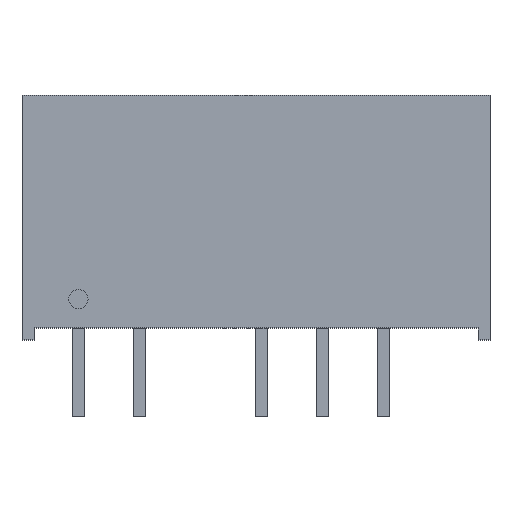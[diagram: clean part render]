
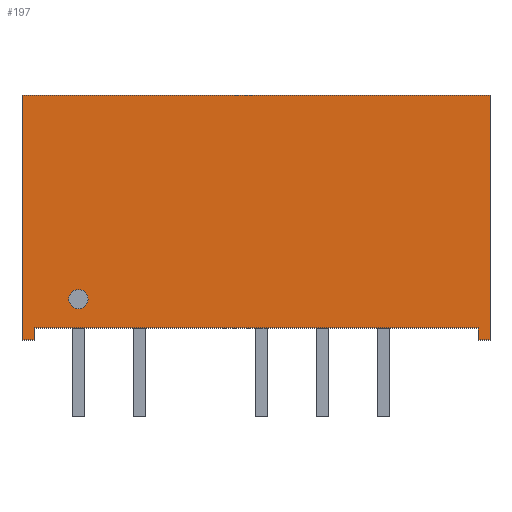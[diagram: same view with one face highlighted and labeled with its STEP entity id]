
A CAD part, top view. The second image highlights one B-rep face of the part: STEP entity #197.
In plain terms, the highlighted planar face has unit normal (0, 0, 1).
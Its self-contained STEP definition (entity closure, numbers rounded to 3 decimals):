
#15 = VERTEX_POINT ( 'NONE', #277 ) ;
#22 = VERTEX_POINT ( 'NONE', #267 ) ;
#24 = EDGE_CURVE ( 'NONE', #22, #25, #266, .T. ) ;
#25 = VERTEX_POINT ( 'NONE', #261 ) ;
#42 = VERTEX_POINT ( 'NONE', #519 ) ;
#51 = EDGE_CURVE ( 'NONE', #56, #125, #541, .T. ) ;
#56 = VERTEX_POINT ( 'NONE', #530 ) ;
#61 = VERTEX_POINT ( 'NONE', #514 ) ;
#63 = EDGE_CURVE ( 'NONE', #15, #61, #513, .T. ) ;
#77 = EDGE_CURVE ( 'NONE', #125, #143, #493, .T. ) ;
#80 = EDGE_CURVE ( 'NONE', #143, #42, #489, .T. ) ;
#87 = VERTEX_POINT ( 'NONE', #693 ) ;
#104 = EDGE_LOOP ( 'NONE', ( #113, #204 ) ) ;
#105 = ORIENTED_EDGE ( 'NONE', *, *, #126, .T. ) ;
#106 = ORIENTED_EDGE ( 'NONE', *, *, #51, .T. ) ;
#107 = ORIENTED_EDGE ( 'NONE', *, *, #110, .T. ) ;
#108 = ORIENTED_EDGE ( 'NONE', *, *, #77, .T. ) ;
#110 = EDGE_CURVE ( 'NONE', #123, #15, #675, .T. ) ;
#111 = ORIENTED_EDGE ( 'NONE', *, *, #80, .T. ) ;
#112 = ORIENTED_EDGE ( 'NONE', *, *, #116, .T. ) ;
#113 = ORIENTED_EDGE ( 'NONE', *, *, #203, .F. ) ;
#116 = EDGE_CURVE ( 'NONE', #42, #123, #577, .T. ) ;
#123 = VERTEX_POINT ( 'NONE', #564 ) ;
#125 = VERTEX_POINT ( 'NONE', #563 ) ;
#126 = EDGE_CURVE ( 'NONE', #87, #56, #562, .T. ) ;
#143 = VERTEX_POINT ( 'NONE', #586 ) ;
#185 = EDGE_CURVE ( 'NONE', #61, #87, #941, .T. ) ;
#197 = ADVANCED_FACE ( 'NONE', ( #912, #911 ), #910, .T. ) ;
#200 = ORIENTED_EDGE ( 'NONE', *, *, #185, .T. ) ;
#201 = EDGE_LOOP ( 'NONE', ( #200, #105, #106, #108, #111, #112, #107, #205 ) ) ;
#203 = EDGE_CURVE ( 'NONE', #25, #22, #923, .T. ) ;
#204 = ORIENTED_EDGE ( 'NONE', *, *, #24, .F. ) ;
#205 = ORIENTED_EDGE ( 'NONE', *, *, #63, .T. ) ;
#261 = CARTESIAN_POINT ( 'NONE',  ( -7., 1.2, 3.05 ) ) ;
#262 = DIRECTION ( 'NONE',  ( 1., 0., 0. ) ) ;
#263 = DIRECTION ( 'NONE',  ( 0., 0., 1. ) ) ;
#264 = CARTESIAN_POINT ( 'NONE',  ( -7.4, 1.2, 3.05 ) ) ;
#265 = AXIS2_PLACEMENT_3D ( 'NONE', #264, #263, #262 ) ;
#266 = CIRCLE ( 'NONE', #265, 0.4 ) ;
#267 = CARTESIAN_POINT ( 'NONE',  ( -7.8, 1.2, 3.05 ) ) ;
#277 = CARTESIAN_POINT ( 'NONE',  ( -9.25, 0., 3.05 ) ) ;
#486 = DIRECTION ( 'NONE',  ( 0., -1., 0. ) ) ;
#487 = VECTOR ( 'NONE', #486, 1000. ) ;
#488 = CARTESIAN_POINT ( 'NONE',  ( -9.75, -0.5, 3.05 ) ) ;
#489 = LINE ( 'NONE', #488, #487 ) ;
#490 = DIRECTION ( 'NONE',  ( -1., 0., 0. ) ) ;
#491 = VECTOR ( 'NONE', #490, 1000. ) ;
#492 = CARTESIAN_POINT ( 'NONE',  ( 9.75, 9.7, 3.05 ) ) ;
#493 = LINE ( 'NONE', #492, #491 ) ;
#510 = DIRECTION ( 'NONE',  ( 1., 0., 0. ) ) ;
#511 = VECTOR ( 'NONE', #510, 1000. ) ;
#512 = CARTESIAN_POINT ( 'NONE',  ( -9.25, 0., 3.05 ) ) ;
#513 = LINE ( 'NONE', #512, #511 ) ;
#514 = CARTESIAN_POINT ( 'NONE',  ( 9.25, 0., 3.05 ) ) ;
#519 = CARTESIAN_POINT ( 'NONE',  ( -9.75, -0.5, 3.05 ) ) ;
#530 = CARTESIAN_POINT ( 'NONE',  ( 9.75, -0.5, 3.05 ) ) ;
#538 = DIRECTION ( 'NONE',  ( 0., 1., 0. ) ) ;
#539 = VECTOR ( 'NONE', #538, 1000. ) ;
#540 = CARTESIAN_POINT ( 'NONE',  ( 9.75, -0.5, 3.05 ) ) ;
#541 = LINE ( 'NONE', #540, #539 ) ;
#559 = DIRECTION ( 'NONE',  ( 1., 0., 0. ) ) ;
#560 = VECTOR ( 'NONE', #559, 1000. ) ;
#561 = CARTESIAN_POINT ( 'NONE',  ( 9.25, -0.5, 3.05 ) ) ;
#562 = LINE ( 'NONE', #561, #560 ) ;
#563 = CARTESIAN_POINT ( 'NONE',  ( 9.75, 9.7, 3.05 ) ) ;
#564 = CARTESIAN_POINT ( 'NONE',  ( -9.25, -0.5, 3.05 ) ) ;
#574 = DIRECTION ( 'NONE',  ( 1., 0., 0. ) ) ;
#575 = VECTOR ( 'NONE', #574, 1000. ) ;
#576 = CARTESIAN_POINT ( 'NONE',  ( -9.25, -0.5, 3.05 ) ) ;
#577 = LINE ( 'NONE', #576, #575 ) ;
#586 = CARTESIAN_POINT ( 'NONE',  ( -9.75, 9.7, 3.05 ) ) ;
#672 = DIRECTION ( 'NONE',  ( 0., 1., 0. ) ) ;
#673 = VECTOR ( 'NONE', #672, 1000. ) ;
#674 = CARTESIAN_POINT ( 'NONE',  ( -9.25, 0., 3.05 ) ) ;
#675 = LINE ( 'NONE', #674, #673 ) ;
#693 = CARTESIAN_POINT ( 'NONE',  ( 9.25, -0.5, 3.05 ) ) ;
#861 = VECTOR ( 'NONE', #940, 1000. ) ;
#910 = PLANE ( 'NONE',  #917 ) ;
#911 = FACE_OUTER_BOUND ( 'NONE', #201, .T. ) ;
#912 = FACE_BOUND ( 'NONE', #104, .T. ) ;
#916 = CARTESIAN_POINT ( 'NONE',  ( 9.25, 0., 3.05 ) ) ;
#917 = AXIS2_PLACEMENT_3D ( 'NONE', #919, #918, #922 ) ;
#918 = DIRECTION ( 'NONE',  ( 0., 0., 1. ) ) ;
#919 = CARTESIAN_POINT ( 'NONE',  ( 9.25, -0.5, 3.05 ) ) ;
#922 = DIRECTION ( 'NONE',  ( 1., 0., 0. ) ) ;
#923 = CIRCLE ( 'NONE', #929, 0.4 ) ;
#926 = DIRECTION ( 'NONE',  ( 1., 0., 0. ) ) ;
#927 = DIRECTION ( 'NONE',  ( 0., 0., 1. ) ) ;
#928 = CARTESIAN_POINT ( 'NONE',  ( -7.4, 1.2, 3.05 ) ) ;
#929 = AXIS2_PLACEMENT_3D ( 'NONE', #928, #927, #926 ) ;
#940 = DIRECTION ( 'NONE',  ( 0., -1., 0. ) ) ;
#941 = LINE ( 'NONE', #916, #861 ) ;
